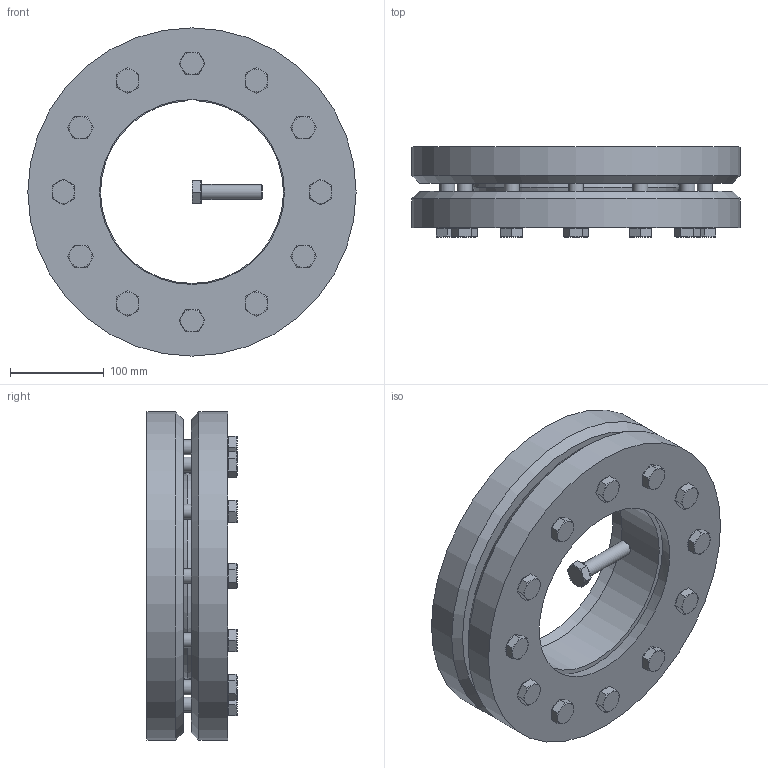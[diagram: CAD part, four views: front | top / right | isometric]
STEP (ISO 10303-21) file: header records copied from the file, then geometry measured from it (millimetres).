
FILE_DESCRIPTION( ( 'Unknown' ), '1' );
FILE_NAME( 'C:/Dokumente und Einstellungen/Sven/Desktop/homepage/cad - homepage/KBS19/KBS 19 - 195 x 350.stp', 'Unknown', ( 'Unknown' ), ( 'Unknown' ), 'XStep 1.0', 'Unknown', ' ' );
FILE_SCHEMA( ( 'automotive_design' ) );
Length unit declared in the file: millimetre
Products named in the file (3): Assem1; KBS 19 - 195 x 350; ISO 4017 - M16 x 65-N
Bounding box: 350 x 96 x 350 mm (x, y, z)
Volume: 10001158.5 mm3; surface area: 921394.2 mm2
Topology: 15 solids, 15 shells, 419 faces, 978 edges, 602 vertices
Faces by surface type: plane 223, cone 103, cylinder 80, torus 13
Full cylindrical faces by diameter (mm): 16 x61, 24 x13, 350 x4
Entity records: 2592 total; most frequent: CARTESIAN_POINT 409, DIRECTION 382, ORIENTED_EDGE 284, AXIS2_PLACEMENT_3D 170, EDGE_LOOP 159, EDGE_CURVE 142, VERTEX_POINT 109, FACE_OUTER_BOUND 101
